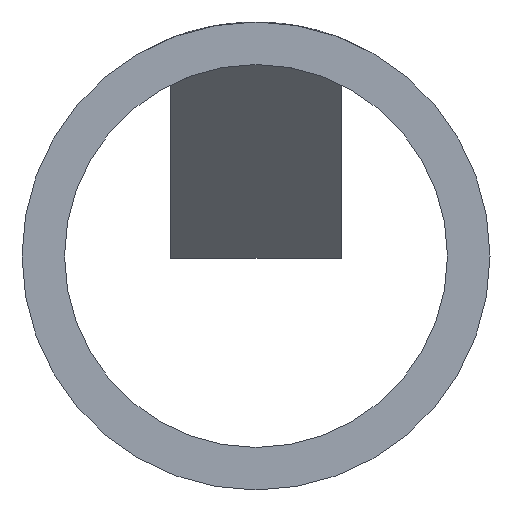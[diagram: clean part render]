
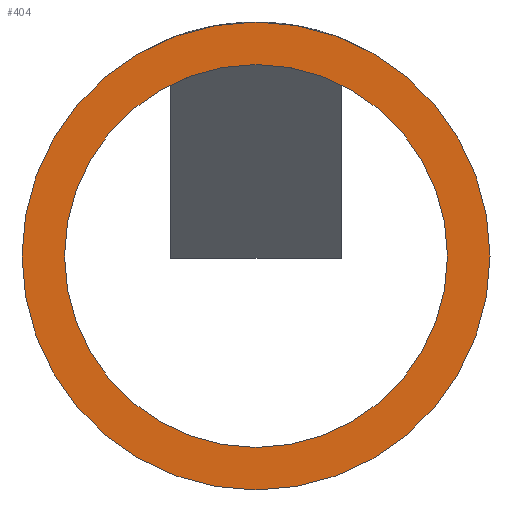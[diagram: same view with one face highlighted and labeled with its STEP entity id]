
A CAD part, front view. The second image highlights one B-rep face of the part: STEP entity #404.
In plain terms, the highlighted planar face has unit normal (0, -1, 0).
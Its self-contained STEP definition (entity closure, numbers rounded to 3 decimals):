
#8 = ORIENTED_EDGE ( 'NONE', *, *, #143, .T. ) ;
#9 = ORIENTED_EDGE ( 'NONE', *, *, #153, .T. ) ;
#10 = ORIENTED_EDGE ( 'NONE', *, *, #176, .F. ) ;
#11 = ORIENTED_EDGE ( 'NONE', *, *, #142, .F. ) ;
#57 = EDGE_LOOP ( 'NONE', ( #8, #9 ) ) ;
#61 = EDGE_LOOP ( 'NONE', ( #10, #11 ) ) ;
#75 = CIRCLE ( 'NONE', #208, 5.5 ) ;
#93 = FACE_OUTER_BOUND ( 'NONE', #57, .T. ) ;
#113 = CIRCLE ( 'NONE', #198, 4.5 ) ;
#116 = FACE_BOUND ( 'NONE', #61, .T. ) ;
#142 = EDGE_CURVE ( 'NONE', #285, #346, #435, .T. ) ;
#143 = EDGE_CURVE ( 'NONE', #325, #338, #427, .T. ) ;
#153 = EDGE_CURVE ( 'NONE', #338, #325, #75, .T. ) ;
#165 = AXIS2_PLACEMENT_3D ( 'NONE', #254, #231, #226 ) ;
#176 = EDGE_CURVE ( 'NONE', #346, #285, #113, .T. ) ;
#178 = AXIS2_PLACEMENT_3D ( 'NONE', #225, #216, #215 ) ;
#195 = AXIS2_PLACEMENT_3D ( 'NONE', #253, #242, #241 ) ;
#198 = AXIS2_PLACEMENT_3D ( 'NONE', #324, #321, #320 ) ;
#208 = AXIS2_PLACEMENT_3D ( 'NONE', #373, #371, #369 ) ;
#215 = DIRECTION ( 'NONE',  ( -1., 0., 0. ) ) ;
#216 = DIRECTION ( 'NONE',  ( 0., -1., 0. ) ) ;
#225 = CARTESIAN_POINT ( 'NONE',  ( 0., 0., 0. ) ) ;
#226 = DIRECTION ( 'NONE',  ( -1., 0., 0. ) ) ;
#231 = DIRECTION ( 'NONE',  ( 0., -1., 0. ) ) ;
#241 = DIRECTION ( 'NONE',  ( -1., 0., 0. ) ) ;
#242 = DIRECTION ( 'NONE',  ( 0., -1., 0. ) ) ;
#243 = PLANE ( 'NONE',  #195 ) ;
#253 = CARTESIAN_POINT ( 'NONE',  ( 0., 0., 0. ) ) ;
#254 = CARTESIAN_POINT ( 'NONE',  ( 0., 0., 0. ) ) ;
#285 = VERTEX_POINT ( 'NONE', #298 ) ;
#287 = CARTESIAN_POINT ( 'NONE',  ( 4.5, 0., 0. ) ) ;
#291 = CARTESIAN_POINT ( 'NONE',  ( 5.5, 0., 0. ) ) ;
#298 = CARTESIAN_POINT ( 'NONE',  ( -4.5, 0., 0. ) ) ;
#305 = CARTESIAN_POINT ( 'NONE',  ( -5.5, 0., 0. ) ) ;
#320 = DIRECTION ( 'NONE',  ( -1., 0., 0. ) ) ;
#321 = DIRECTION ( 'NONE',  ( 0., -1., 0. ) ) ;
#324 = CARTESIAN_POINT ( 'NONE',  ( 0., 0., 0. ) ) ;
#325 = VERTEX_POINT ( 'NONE', #291 ) ;
#338 = VERTEX_POINT ( 'NONE', #305 ) ;
#346 = VERTEX_POINT ( 'NONE', #287 ) ;
#369 = DIRECTION ( 'NONE',  ( -1., 0., 0. ) ) ;
#371 = DIRECTION ( 'NONE',  ( 0., -1., 0. ) ) ;
#373 = CARTESIAN_POINT ( 'NONE',  ( 0., 0., 0. ) ) ;
#404 = ADVANCED_FACE ( 'NONE', ( #93, #116 ), #243, .T. ) ;
#427 = CIRCLE ( 'NONE', #178, 5.5 ) ;
#435 = CIRCLE ( 'NONE', #165, 4.5 ) ;
